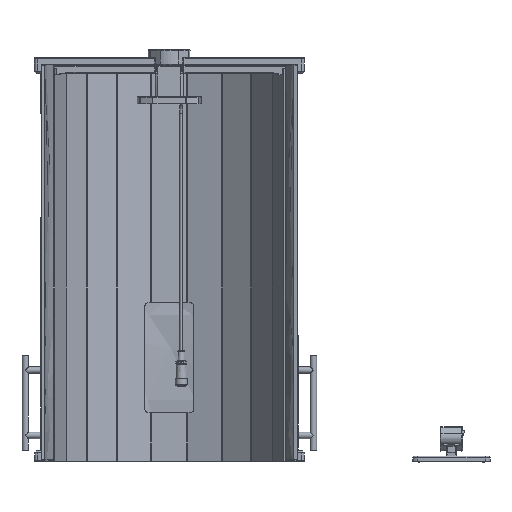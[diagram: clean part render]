
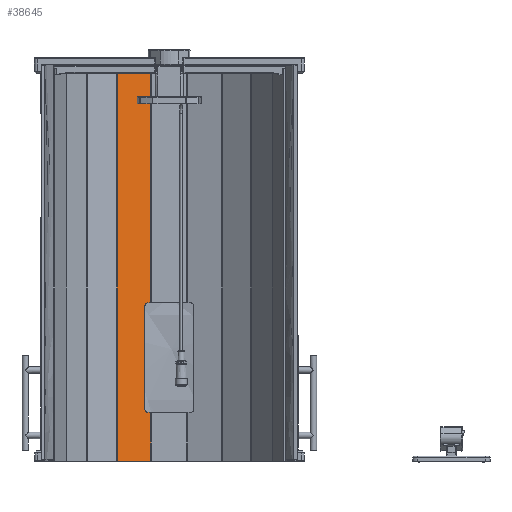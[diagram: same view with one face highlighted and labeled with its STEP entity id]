
A CAD part, front view. The second image highlights one B-rep face of the part: STEP entity #38645.
In plain terms, the highlighted planar face has unit normal (0.309, -0.951, 0).
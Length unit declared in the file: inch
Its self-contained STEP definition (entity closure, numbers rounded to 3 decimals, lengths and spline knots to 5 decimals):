
#38094=CARTESIAN_POINT('',(86.41625,29.93573,-40.13814));
#38095=VERTEX_POINT('',#38094);
#38102=CARTESIAN_POINT('',(86.65401,30.01298,-40.38814));
#38103=VERTEX_POINT('',#38102);
#38104=CARTESIAN_POINT('',(86.65401,30.01298,-40.13814));
#38105=DIRECTION('',(0.309,-0.951,0.));
#38106=DIRECTION('',(-0.672,-0.219,-0.707));
#38107=AXIS2_PLACEMENT_3D('',#38104,#38105,#38106);
#38108=CIRCLE('',#38107,0.25);
#38109=EDGE_CURVE('',#38095,#38103,#38108,.T.);
#38134=CARTESIAN_POINT('',(86.41625,29.93573,-32.13814));
#38135=VERTEX_POINT('',#38134);
#38142=CARTESIAN_POINT('',(86.41625,29.93573,-40.13814));
#38143=DIRECTION('',(0.0,0.0,1.0));
#38144=VECTOR('',#38143,8.0);
#38145=LINE('',#38142,#38144);
#38146=EDGE_CURVE('',#38095,#38135,#38145,.T.);
#38229=CARTESIAN_POINT('',(86.65401,30.01298,-31.88814));
#38230=VERTEX_POINT('',#38229);
#38231=CARTESIAN_POINT('',(86.65401,30.01298,-32.13814));
#38232=DIRECTION('',(0.309,-0.951,0.));
#38233=DIRECTION('',(-0.672,-0.219,0.707));
#38234=AXIS2_PLACEMENT_3D('',#38231,#38232,#38233);
#38235=CIRCLE('',#38234,0.25);
#38236=EDGE_CURVE('',#38230,#38135,#38235,.T.);
#38362=CARTESIAN_POINT('',(86.86927,30.08292,-31.88814));
#38363=VERTEX_POINT('',#38362);
#38371=CARTESIAN_POINT('',(86.65401,30.01298,-31.88814));
#38372=DIRECTION('',(0.951,0.309,0.0));
#38373=VECTOR('',#38372,0.22633);
#38374=LINE('',#38371,#38373);
#38375=EDGE_CURVE('',#38230,#38363,#38374,.T.);
#38386=CARTESIAN_POINT('',(86.86927,30.08292,-40.38814));
#38387=VERTEX_POINT('',#38386);
#38388=CARTESIAN_POINT('',(86.86927,30.08292,-40.38814));
#38389=DIRECTION('',(-0.951,-0.309,0.0));
#38390=VECTOR('',#38389,0.22633);
#38391=LINE('',#38388,#38390);
#38392=EDGE_CURVE('',#38387,#38103,#38391,.T.);
#38595=CARTESIAN_POINT('',(86.68098,30.02174,-48.85364));
#38596=DIRECTION('',(0.309,-0.951,0.));
#38597=DIRECTION('',(0.0,0.0,1.0));
#38598=AXIS2_PLACEMENT_3D('',#38595,#38596,#38597);
#38599=PLANE('',#38598);
#38600=ORIENTED_EDGE('',*,*,#38392,.T.);
#38601=ORIENTED_EDGE('',*,*,#38109,.F.);
#38602=ORIENTED_EDGE('',*,*,#38146,.T.);
#38603=ORIENTED_EDGE('',*,*,#38236,.F.);
#38604=ORIENTED_EDGE('',*,*,#38375,.T.);
#38605=CARTESIAN_POINT('',(86.86927,30.08292,-13.68864));
#38606=VERTEX_POINT('',#38605);
#38607=CARTESIAN_POINT('',(86.86927,30.08292,-13.68864));
#38608=DIRECTION('',(0.0,0.0,-1.0));
#38609=VECTOR('',#38608,18.1995);
#38610=LINE('',#38607,#38609);
#38611=EDGE_CURVE('',#38606,#38363,#38610,.T.);
#38612=ORIENTED_EDGE('',*,*,#38611,.F.);
#38613=CARTESIAN_POINT('',(84.2639,29.23638,-13.68864));
#38614=VERTEX_POINT('',#38613);
#38615=CARTESIAN_POINT('',(84.2639,29.23638,-13.68864));
#38616=DIRECTION('',(0.951,0.309,0.0));
#38617=VECTOR('',#38616,2.73945);
#38618=LINE('',#38615,#38617);
#38619=EDGE_CURVE('',#38614,#38606,#38618,.T.);
#38620=ORIENTED_EDGE('',*,*,#38619,.F.);
#38621=CARTESIAN_POINT('',(84.2639,29.23638,-44.18814));
#38622=VERTEX_POINT('',#38621);
#38623=CARTESIAN_POINT('',(84.2639,29.23638,-44.18814));
#38624=DIRECTION('',(0.0,0.0,1.0));
#38625=VECTOR('',#38624,30.4995);
#38626=LINE('',#38623,#38625);
#38627=EDGE_CURVE('',#38622,#38614,#38626,.T.);
#38628=ORIENTED_EDGE('',*,*,#38627,.F.);
#38629=CARTESIAN_POINT('',(86.86927,30.08292,-44.18814));
#38630=VERTEX_POINT('',#38629);
#38631=CARTESIAN_POINT('',(86.86927,30.08292,-44.18814));
#38632=DIRECTION('',(-0.951,-0.309,0.0));
#38633=VECTOR('',#38632,2.73945);
#38634=LINE('',#38631,#38633);
#38635=EDGE_CURVE('',#38630,#38622,#38634,.T.);
#38636=ORIENTED_EDGE('',*,*,#38635,.F.);
#38637=CARTESIAN_POINT('',(86.86927,30.08292,-40.38814));
#38638=DIRECTION('',(0.0,0.0,-1.0));
#38639=VECTOR('',#38638,3.8);
#38640=LINE('',#38637,#38639);
#38641=EDGE_CURVE('',#38387,#38630,#38640,.T.);
#38642=ORIENTED_EDGE('',*,*,#38641,.F.);
#38643=EDGE_LOOP('',(#38600,#38601,#38602,#38603,#38604,#38612,#38620,#38628,#38636,#38642));
#38644=FACE_OUTER_BOUND('',#38643,.T.);
#38645=ADVANCED_FACE('',(#38644),#38599,.T.);
